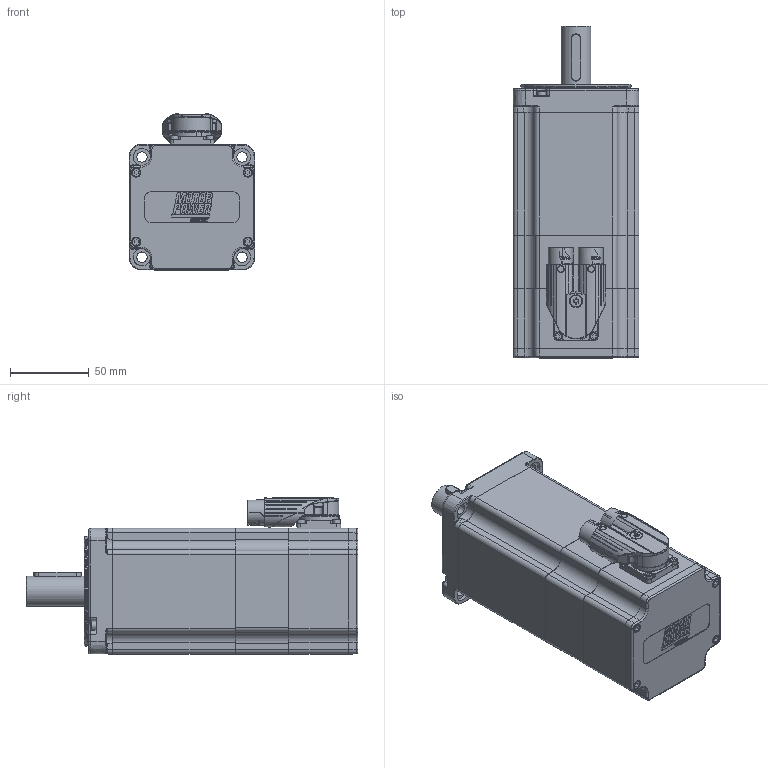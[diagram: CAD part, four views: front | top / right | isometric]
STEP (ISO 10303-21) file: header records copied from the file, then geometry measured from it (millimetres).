
FILE_DESCRIPTION(/* description */ ('Unknown'),/* implementation_level */ '2;1');
FILE_NAME(/* name */ 'TC4-80.3B.XX.X.3.M1.1.1.G11.33.80 Q0D211',/* time_stamp */ '2026-03-04T11:56:08+01:00',/* author */ ('Unknown'),/* organization */ ('Unknown'),/* preprocessor_version */ 'ST-DEVELOPER v19.4',/* originating_system */ 'Solid Edge',/* authorisation */ 'Unknown');
FILE_SCHEMA (('AUTOMOTIVE_DESIGN {1 0 10303 214 3 1 1}'));
Products named in the file (13): Q0D211 3B FRENO M1 VUOTO; 003103040223; 003155002201; 005119001500; 005117001560; 005911000192; 003003200454; 003107003286; 005113000500; 005911000185; 003251040719; 005911000202; 003151003147
Assembly tree (21 placements, depth 2):
  Q0D211 3B FRENO M1 VUOTO
    003103040223
    003155002201
    005119001500
    005117001560
    005911000192  x4
    003003200454
    003107003286
    005113000500
    005911000185  x4
    003251040719
    005911000202  x4
    003151003147
Bounding box: 80 x 211 x 99.25 mm (x, y, z)
Volume: 396493.8 mm3; surface area: 181996.4 mm2
Topology: 23 solids, 23 shells, 2738 faces, 6684 edges, 4147 vertices
Faces by surface type: plane 1014, cylinder 755, bspline 455, torus 286, cone 170, sphere 58
Full cylindrical faces by diameter (mm): 1 x21, 1.175 x12, 1.5 x1, 1.8 x5, 2 x1, 2.013 x4, 2.05 x3, 2.459 x36, 2.5 x5, 3 x8, 3.2 x5, 3.5 x14, 4 x2, 4.7 x4, 4.917 x1, 5.5 x8, 6 x5, 6.4 x1, 6.5 x4, 6.6 x4, 7 x4, 7.5 x1, 8 x1, 10 x2, 11 x4, 11.75 x1, 15 x2, 16.2 x2, 16.9 x1, 16.95 x1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
Entity records: 111638 total; most frequent: CARTESIAN_POINT 39230, ORIENTED_EDGE 11804, DIRECTION 10896, EDGE_CURVE 5902, AXIS2_PLACEMENT_3D 4237, VERTEX_POINT 3885, FACE_BOUND 3235, EDGE_LOOP 3210
